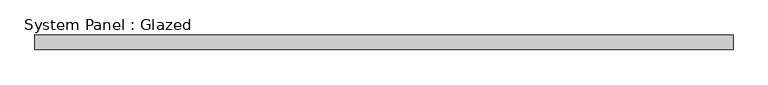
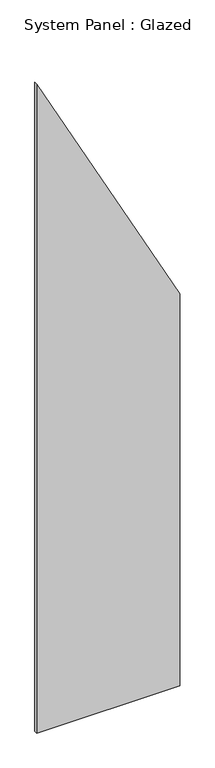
"""IFC4 building model written with IfcOpenShell, lengths in millimetres: plate geometry, System Panel : Glazed."""

from ifc_helpers import new_model, si_unit, frame, origin, place, context, project, spatial, polyline, outline, extrude, source, transform, mapped, element, save


def system_panel_glazed_7913ca13(model_context):
    return source(origin(), model_context, "Body", "SweptSolid", [
        extrude(outline(polyline([(0.0, -590.4881511), (0.0, 590.4881511), (3421.1526345, 590.4881511), (5664.1017563, -590.4881511), (0.0, -590.4881511)])), frame((0.0, -12.5, 0.0), z_axis=(0.0, 1.0, 0.0), x_axis=(0.0, 0.0, 1.0)), (0.0, 0.0, 1.0), 25.0),
    ])


if __name__ == "__main__":
    model = new_model("IFC4")
    model_context = context("Model", 3, world=origin())
    ifc_project = project(units=[si_unit("LENGTHUNIT", "METRE", prefix="MILLI")], contexts=[model_context])
    site = spatial("IfcSite", under=ifc_project)
    building = spatial("IfcBuilding", under=site)
    placement = place(None, origin())
    system_panel_glazed_shape = system_panel_glazed_7913ca13(model_context)
    element("IfcPlate", 1, ObjectType="System Panel : Glazed", at=placement, inside=building, context=model_context, shape_type="MappedRepresentation", body=[
        mapped(system_panel_glazed_shape, transform((0.0, 0.0, 0.0), x_axis=(1.0, 0.0, 0.0), y_axis=(0.0, 1.0, 0.0), z_axis=(0.0, 0.0, 1.0))),
    ])
    save(model, "model.ifc")
